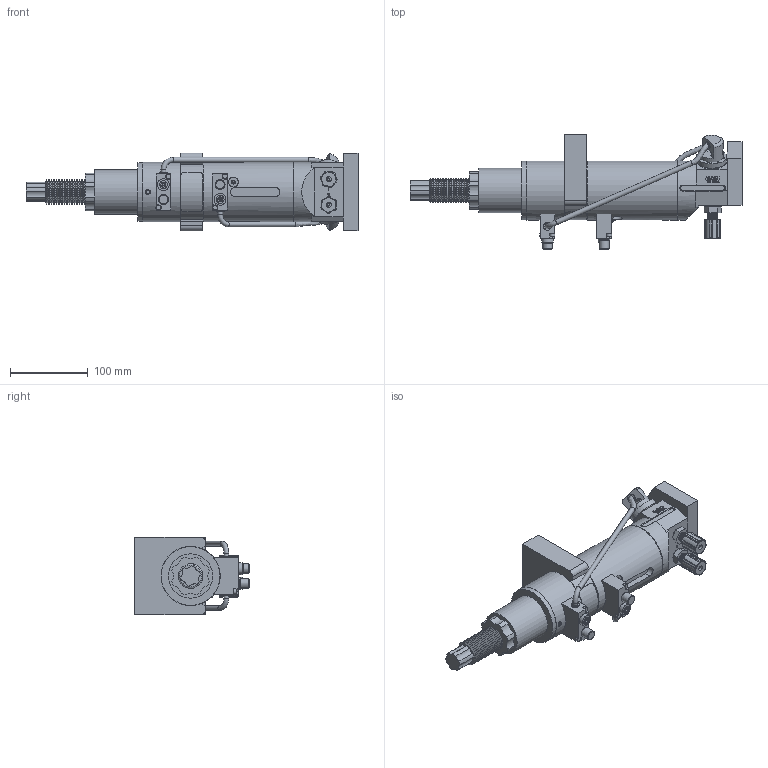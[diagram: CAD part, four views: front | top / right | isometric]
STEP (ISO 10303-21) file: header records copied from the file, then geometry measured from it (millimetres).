
FILE_DESCRIPTION (( 'STEP AP214' ), '1' );
FILE_NAME ('PPM100.STEP', '2014-06-27T16:28:41', ( '' ), ( '' ), 'SwSTEP 2.0', 'SolidWorks 2012', '' );
FILE_SCHEMA (( 'AUTOMOTIVE_DESIGN' ));
Length unit declared in the file: inch
Products named in the file (1): PPM100
Bounding box: 427.88 x 147.84 x 100.08 mm (x, y, z)
Volume: 1797761.9 mm3; surface area: 192388.1 mm2
Topology: 3 solids, 3 shells, 973 faces, 2311 edges, 1481 vertices
Faces by surface type: plane 483, cylinder 222, cone 171, torus 60, bspline 37
Full cylindrical faces by diameter (mm): 1.702 x16, 1.778 x1, 2.121 x2, 2.476 x2, 2.794 x2, 3.175 x6, 3.302 x2, 4.508 x4, 4.763 x2, 4.826 x1, 6.35 x8, 6.477 x2, 6.528 x4, 6.604 x4, 6.731 x2, 7.62 x4, 7.722 x2, 10.16 x6, 10.312 x2, 10.414 x2, 10.922 x2, 12.7 x4, 14.58 x2, 15.24 x2, 16.002 x2, 22.301 x2, 25.502 x4, 29.464 x2, 33.02 x2, 37.973 x2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
Entity records: 36661 total; most frequent: CARTESIAN_POINT 8480, DIRECTION 4216, ORIENTED_EDGE 3950, EDGE_CURVE 1975, AXIS2_PLACEMENT_3D 1617, VERTEX_POINT 1427, EDGE_LOOP 1410, FACE_OUTER_BOUND 1091
